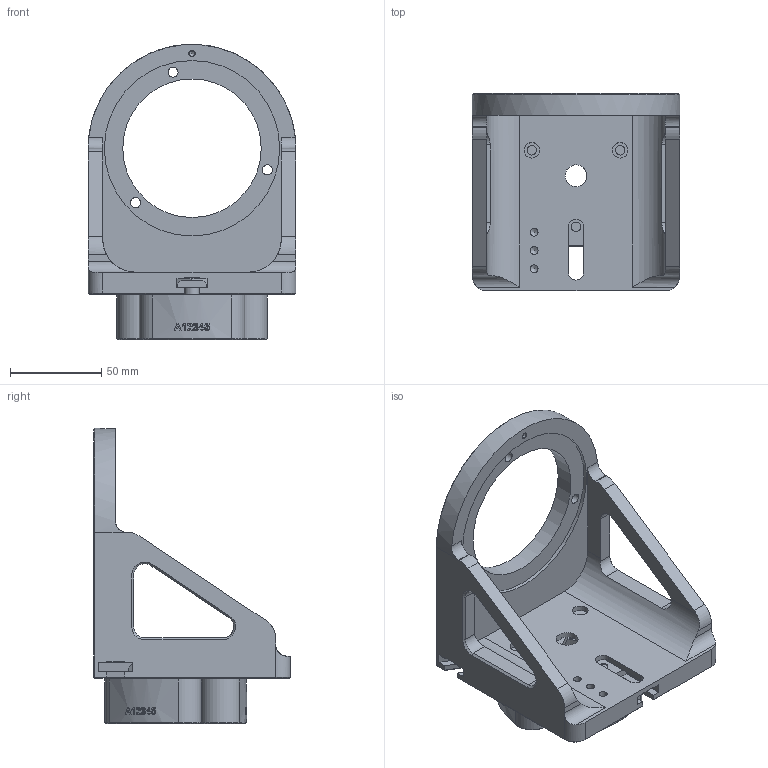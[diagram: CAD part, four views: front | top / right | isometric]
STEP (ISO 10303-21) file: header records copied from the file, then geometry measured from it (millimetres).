
FILE_DESCRIPTION(/* description */ (''),/* implementation_level */ '2;1');
FILE_NAME(/* name */ 'A-9920-0700-01-B XR20-W 90 DEGREE BRACKET KIT.stp',/* time_stamp */ '2016-02-26T09:40:13+00:00',/* author */ (''),/* organization */ (''),/* preprocessor_version */ 'ST-DEVELOPER v11',/* originating_system */ 'SIEMENS PLM Software NX 7.5',/* authorisation */ '');
FILE_SCHEMA (('AUTOMOTIVE_DESIGN { 1 0 10303 214 1 1 1 1 }'));
Length unit declared in the file: millimetre
Products named in the file (1): LA-9920-0700-01_B
Bounding box: 114.01 x 108 x 162 mm (x, y, z)
Volume: 359055.4 mm3; surface area: 94239.5 mm2
Topology: 1 solids, 7 shells, 375 faces, 1078 edges, 766 vertices
Faces by surface type: plane 181, cylinder 120, cone 59, torus 15
Full cylindrical faces by diameter (mm): 2.925 x1, 4.3 x3, 5.2 x3, 5.5 x3, 6 x3, 6.2 x3, 8 x9, 8.5 x2, 8.7 x3, 9 x3, 10 x3, 10.5 x3, 12 x1, 15.875 x6, 16.05 x6, 76 x1, 96.2 x1
Entity records: 13794 total; most frequent: CARTESIAN_POINT 3449, ORIENTED_EDGE 1904, DIRECTION 1710, EDGE_CURVE 952, VERTEX_POINT 737, AXIS2_PLACEMENT_3D 645, EDGE_LOOP 549, LINE 420
